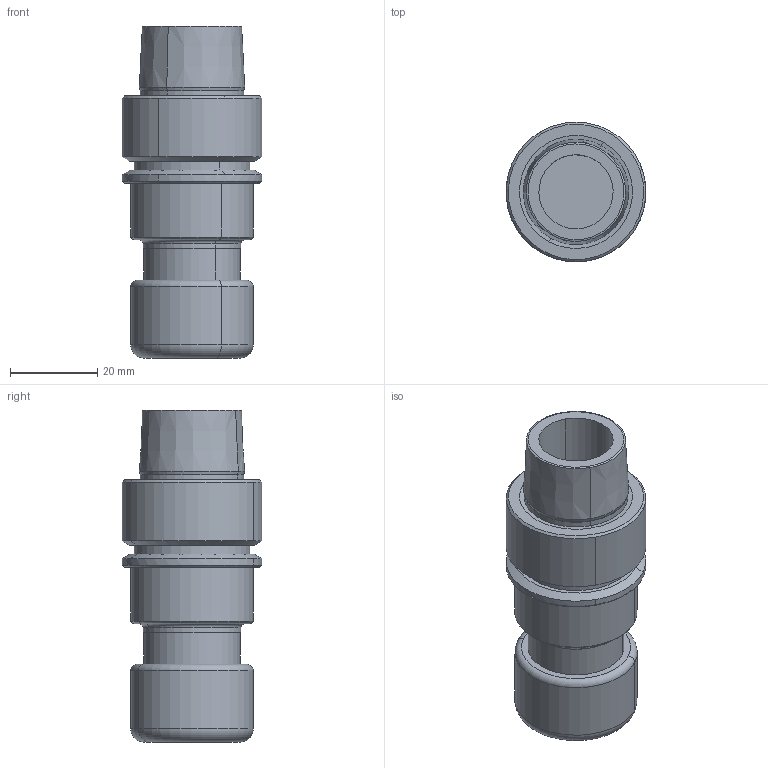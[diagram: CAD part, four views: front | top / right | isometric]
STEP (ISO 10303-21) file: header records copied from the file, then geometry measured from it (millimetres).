
FILE_DESCRIPTION(('CATIA V5 STEP','CAx-IF Rec.Pracs.--- Model Styling and Organization---1.2---2011-12-15'),'2;1');
FILE_NAME('\\nas01\drv1\utils\eitdev\rte\eit\transmagicconvert\db\out\635931933038969327\4505782-D-L-B.stp','2016-03-10T05:55:16+00:00',('none'),('none'),'CATIA Version 5 Release 21 SP 5 (IN-10)','CATIA V5 STEP AP214','none');
FILE_SCHEMA(('AUTOMOTIVE_DESIGN { 1 0 10303 214 1 1 1 1 }'));
Length unit declared in the file: millimetre
Products named in the file (1): HSK E 32 ER16X 60
Bounding box: 31.99 x 32 x 76 mm (x, y, z)
Volume: 34063.5 mm3; surface area: 11321.7 mm2
Topology: 1 solids, 1 shells, 66 faces, 138 edges, 81 vertices
Faces by surface type: cylinder 24, cone 20, torus 12, plane 10
Entity records: 1559 total; most frequent: ORIENTED_EDGE 272, CARTESIAN_POINT 258, DIRECTION 216, EDGE_CURVE 136, AXIS2_PLACEMENT_3D 133, CIRCLE 92, VERTEX_POINT 81, EDGE_LOOP 75
